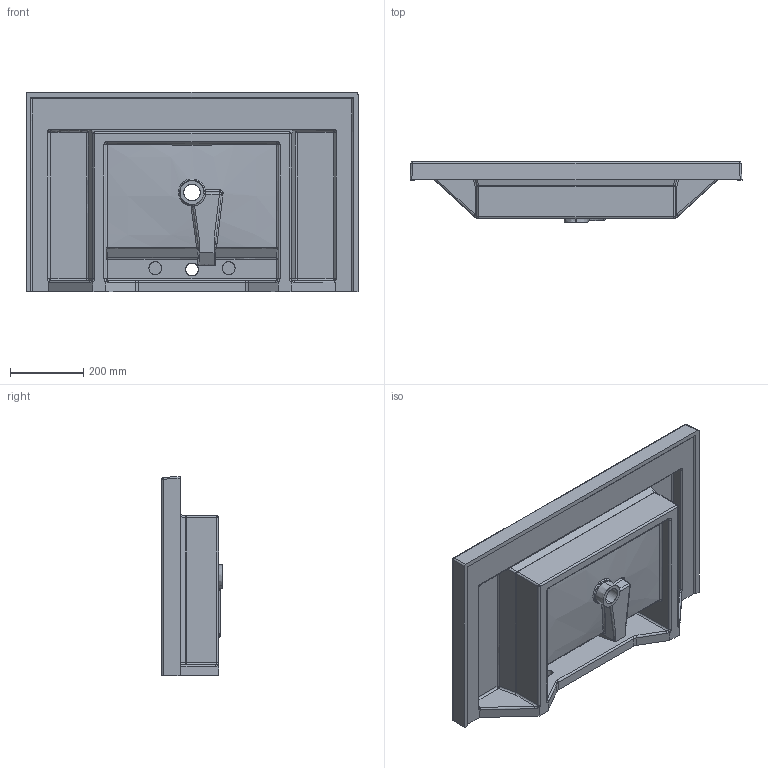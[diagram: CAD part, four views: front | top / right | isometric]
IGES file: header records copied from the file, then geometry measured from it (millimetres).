
Start section: SolidWorks IGES file using analytic representation for surfaces
Global section: file name: K:\lavabi tecla 3D IGS\p. MARS (5)\MARS 54x90MAR02011.IGS; native system: SolidWorks 2013; preprocessor: SolidWorks 2013; author: UTENTE 1; date: 140521.172355; units: millimetre
Bounding box: 905.24 x 165 x 542.62 mm (x, y, z)
Surface area: 1696231.2 mm2 (no closed solid volume)
Topology: 0 solids, 0 shells, 235 faces, 2893 edges, 2879 vertices
Faces by surface type: revolution 120, bspline 115
